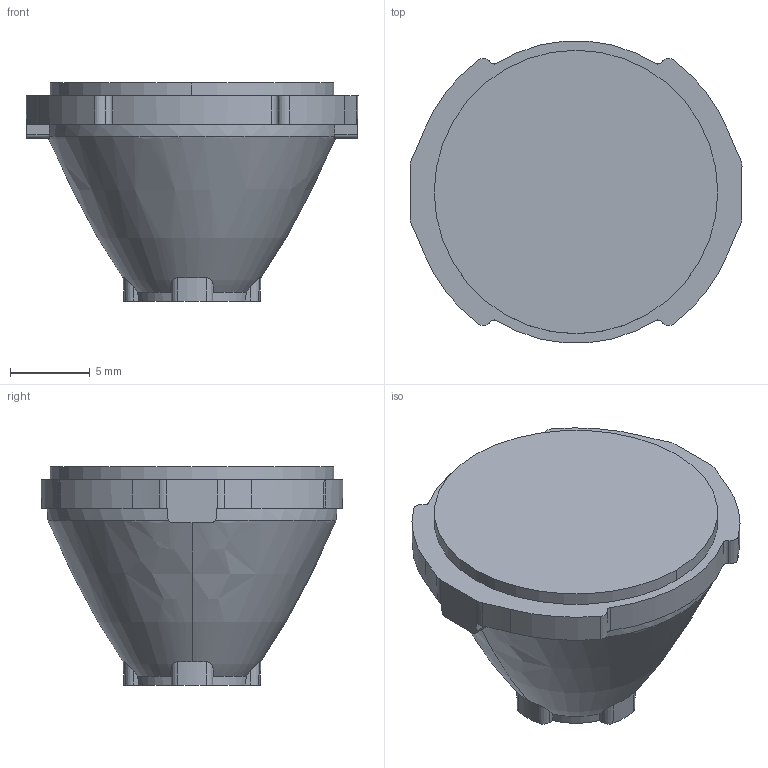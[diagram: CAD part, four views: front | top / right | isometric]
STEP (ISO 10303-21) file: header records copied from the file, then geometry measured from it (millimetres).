
FILE_DESCRIPTION(('Creo Elements/Direct Modeling STEP Export'),'2;1');
FILE_NAME('91751.stp','2026-09-14T11:40:45',(''),(''),'Creo Elements/Direct Modeling STEP processor for AP214 (Solid Model)','Creo Elements/Direct Modeling 20.9 29-May-2026 (C) Parametric Technology GmbH','');
FILE_SCHEMA(('AUTOMOTIVE_DESIGN { 1 0 10303 214 1 1 1 1 }'));
Length unit declared in the file: millimetre
Products named in the file (2): 91751
Assembly tree (1 placements, depth 2):
  91751
    91751
Bounding box: 20.85 x 18.94 x 13.7 mm (x, y, z)
Volume: 2281.5 mm3; surface area: 1214.7 mm2
Topology: 1 solids, 1 shells, 72 faces, 205 edges, 137 vertices
Faces by surface type: cone 36, plane 22, cylinder 12, revolution 2
Entity records: 2598 total; most frequent: CARTESIAN_POINT 717, ORIENTED_EDGE 410, DIRECTION 366, EDGE_CURVE 205, AXIS2_PLACEMENT_3D 146, VERTEX_POINT 137, EDGE_LOOP 74, VECTOR 72
